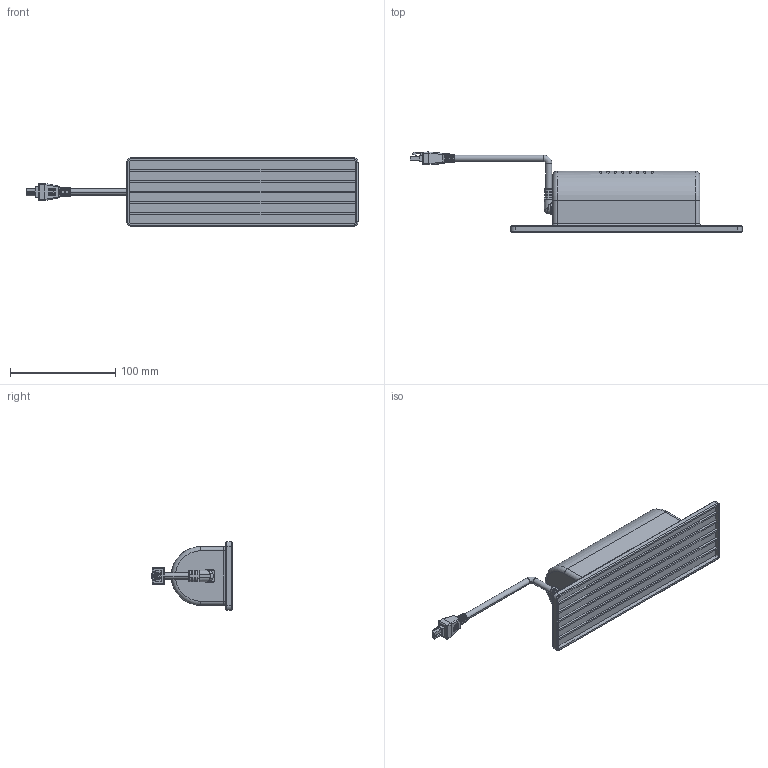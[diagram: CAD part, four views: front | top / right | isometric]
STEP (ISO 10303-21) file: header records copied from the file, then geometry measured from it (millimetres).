
FILE_DESCRIPTION((''),'2;1');
FILE_NAME('ZUJAIN','2019-07-16T',('USER'),(''),'PRO/ENGINEER BY PARAMETRIC TECHNOLOGY CORPORATION, 2008090','PRO/ENGINEER BY PARAMETRIC TECHNOLOGY CORPORATION, 2008090','');
FILE_SCHEMA(('CONFIG_CONTROL_DESIGN'));
Length unit declared in the file: millimetre
Products named in the file (1): ZUJAIN
Bounding box: 316 x 76.5 x 65 mm (x, y, z)
Volume: 121187.9 mm3; surface area: 106754.1 mm2
Topology: 1 solids, 5 shells, 773 faces, 2089 edges, 1352 vertices
Faces by surface type: plane 468, cylinder 216, torus 47, bspline 19, sphere 12, cone 11
Entity records: 25549 total; most frequent: CARTESIAN_POINT 5916, ORIENTED_EDGE 4158, DIRECTION 4029, EDGE_CURVE 2079, AXIS2_PLACEMENT_3D 1390, VERTEX_POINT 1352, VECTOR 1249, LINE 1249
